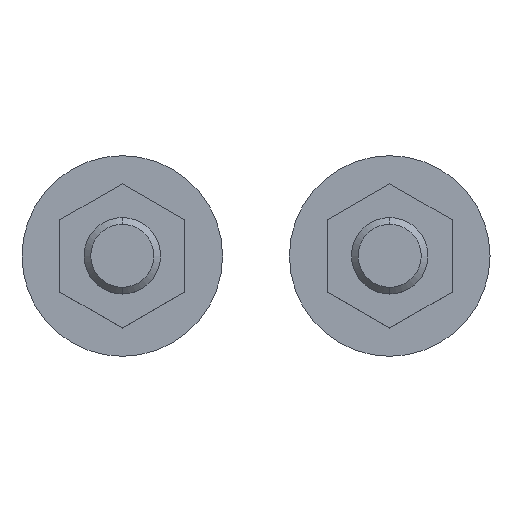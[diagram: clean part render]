
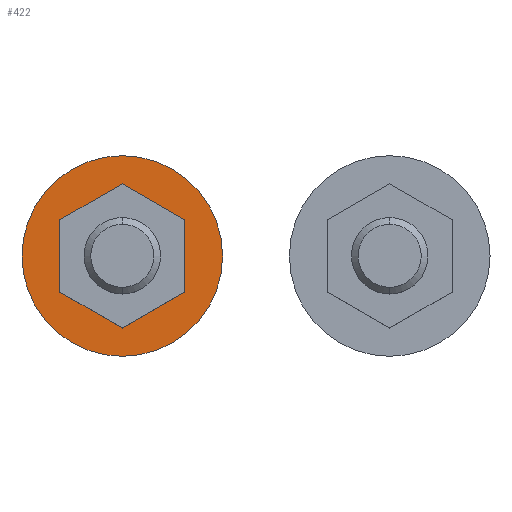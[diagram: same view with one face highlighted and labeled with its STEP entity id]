
A CAD part, top view. The second image highlights one B-rep face of the part: STEP entity #422.
In plain terms, the highlighted planar face has unit normal (0, 0, 1).
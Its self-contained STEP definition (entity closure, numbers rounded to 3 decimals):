
#56 = EDGE_CURVE ( 'NONE', #3270, #714, #2729, .T. ) ;
#58 = ORIENTED_EDGE ( 'NONE', *, *, #1881, .F. ) ;
#66 = VECTOR ( 'NONE', #1490, 1000. ) ;
#252 = AXIS2_PLACEMENT_3D ( 'NONE', #3247, #851, #513 ) ;
#259 = LINE ( 'NONE', #2650, #2216 ) ;
#304 = CARTESIAN_POINT ( 'NONE',  ( 1.462, 33.425, 41.7 ) ) ;
#357 = CARTESIAN_POINT ( 'NONE',  ( 8., 29.65, 41.7 ) ) ;
#374 = VERTEX_POINT ( 'NONE', #304 ) ;
#380 = VERTEX_POINT ( 'NONE', #2471 ) ;
#422 = ADVANCED_FACE ( 'NONE', ( #2953, #949 ), #1911, .T. ) ;
#425 = EDGE_CURVE ( 'NONE', #2604, #2882, #259, .T. ) ;
#513 = DIRECTION ( 'NONE',  ( 0.866, 0.5, 0. ) ) ;
#572 = AXIS2_PLACEMENT_3D ( 'NONE', #1564, #683, #1538 ) ;
#633 = EDGE_CURVE ( 'NONE', #714, #3270, #2486, .T. ) ;
#683 = DIRECTION ( 'NONE',  ( 0., 0., 1. ) ) ;
#714 = VERTEX_POINT ( 'NONE', #3292 ) ;
#758 = CARTESIAN_POINT ( 'NONE',  ( 8., 37.2, 41.7 ) ) ;
#775 = VECTOR ( 'NONE', #1485, 1000. ) ;
#829 = EDGE_CURVE ( 'NONE', #380, #374, #2178, .T. ) ;
#851 = DIRECTION ( 'NONE',  ( 0., 0., 1. ) ) ;
#949 = FACE_BOUND ( 'NONE', #1682, .T. ) ;
#960 = CARTESIAN_POINT ( 'NONE',  ( 8., 44.75, 41.7 ) ) ;
#1164 = DIRECTION ( 'NONE',  ( 0.866, -0.5, 0. ) ) ;
#1190 = AXIS2_PLACEMENT_3D ( 'NONE', #758, #1954, #2045 ) ;
#1271 = DIRECTION ( 'NONE',  ( 0.866, 0.5, 0. ) ) ;
#1314 = VERTEX_POINT ( 'NONE', #960 ) ;
#1333 = EDGE_CURVE ( 'NONE', #1314, #380, #2247, .T. ) ;
#1378 = LINE ( 'NONE', #2963, #775 ) ;
#1473 = DIRECTION ( 'NONE',  ( -0.866, -0.5, 0. ) ) ;
#1480 = ORIENTED_EDGE ( 'NONE', *, *, #2946, .F. ) ;
#1485 = DIRECTION ( 'NONE',  ( -0.866, 0.5, 0. ) ) ;
#1490 = DIRECTION ( 'NONE',  ( 0., -1., 0. ) ) ;
#1538 = DIRECTION ( 'NONE',  ( 0.866, 0.5, 0. ) ) ;
#1552 = VECTOR ( 'NONE', #1271, 1000. ) ;
#1564 = CARTESIAN_POINT ( 'NONE',  ( 8., 37.2, 41.7 ) ) ;
#1596 = VECTOR ( 'NONE', #1164, 1000. ) ;
#1604 = ORIENTED_EDGE ( 'NONE', *, *, #425, .F. ) ;
#1663 = CARTESIAN_POINT ( 'NONE',  ( 1.462, 33.425, 41.7 ) ) ;
#1682 = EDGE_LOOP ( 'NONE', ( #2418, #1480, #1604, #3013, #58, #1933 ) ) ;
#1848 = DIRECTION ( 'NONE',  ( 0., 1., 0. ) ) ;
#1881 = EDGE_CURVE ( 'NONE', #374, #2831, #2101, .T. ) ;
#1911 = PLANE ( 'NONE',  #1190 ) ;
#1933 = ORIENTED_EDGE ( 'NONE', *, *, #829, .F. ) ;
#1936 = CARTESIAN_POINT ( 'NONE',  ( 1.462, 40.975, 41.7 ) ) ;
#1954 = DIRECTION ( 'NONE',  ( 0., 0., 1. ) ) ;
#2027 = CARTESIAN_POINT ( 'NONE',  ( 14.538, 33.425, 41.7 ) ) ;
#2042 = CARTESIAN_POINT ( 'NONE',  ( 8., 44.75, 41.7 ) ) ;
#2045 = DIRECTION ( 'NONE',  ( 0.866, 0.5, 0. ) ) ;
#2101 = LINE ( 'NONE', #1663, #1596 ) ;
#2110 = EDGE_CURVE ( 'NONE', #2831, #2604, #2868, .T. ) ;
#2132 = CARTESIAN_POINT ( 'NONE',  ( 17.093, 42.45, 41.7 ) ) ;
#2175 = VECTOR ( 'NONE', #1473, 1000. ) ;
#2178 = LINE ( 'NONE', #1936, #66 ) ;
#2216 = VECTOR ( 'NONE', #1848, 1000. ) ;
#2247 = LINE ( 'NONE', #2042, #2175 ) ;
#2276 = CARTESIAN_POINT ( 'NONE',  ( 8., 29.65, 41.7 ) ) ;
#2288 = ORIENTED_EDGE ( 'NONE', *, *, #633, .T. ) ;
#2418 = ORIENTED_EDGE ( 'NONE', *, *, #1333, .F. ) ;
#2471 = CARTESIAN_POINT ( 'NONE',  ( 1.462, 40.975, 41.7 ) ) ;
#2486 = CIRCLE ( 'NONE', #252, 10.5 ) ;
#2533 = ORIENTED_EDGE ( 'NONE', *, *, #56, .T. ) ;
#2604 = VERTEX_POINT ( 'NONE', #2027 ) ;
#2650 = CARTESIAN_POINT ( 'NONE',  ( 14.538, 33.425, 41.7 ) ) ;
#2729 = CIRCLE ( 'NONE', #572, 10.5 ) ;
#2831 = VERTEX_POINT ( 'NONE', #357 ) ;
#2868 = LINE ( 'NONE', #2276, #1552 ) ;
#2882 = VERTEX_POINT ( 'NONE', #3176 ) ;
#2946 = EDGE_CURVE ( 'NONE', #2882, #1314, #1378, .T. ) ;
#2953 = FACE_OUTER_BOUND ( 'NONE', #3156, .T. ) ;
#2963 = CARTESIAN_POINT ( 'NONE',  ( 14.538, 40.975, 41.7 ) ) ;
#3013 = ORIENTED_EDGE ( 'NONE', *, *, #2110, .F. ) ;
#3156 = EDGE_LOOP ( 'NONE', ( #2288, #2533 ) ) ;
#3176 = CARTESIAN_POINT ( 'NONE',  ( 14.538, 40.975, 41.7 ) ) ;
#3247 = CARTESIAN_POINT ( 'NONE',  ( 8., 37.2, 41.7 ) ) ;
#3270 = VERTEX_POINT ( 'NONE', #2132 ) ;
#3292 = CARTESIAN_POINT ( 'NONE',  ( -1.093, 31.95, 41.7 ) ) ;
